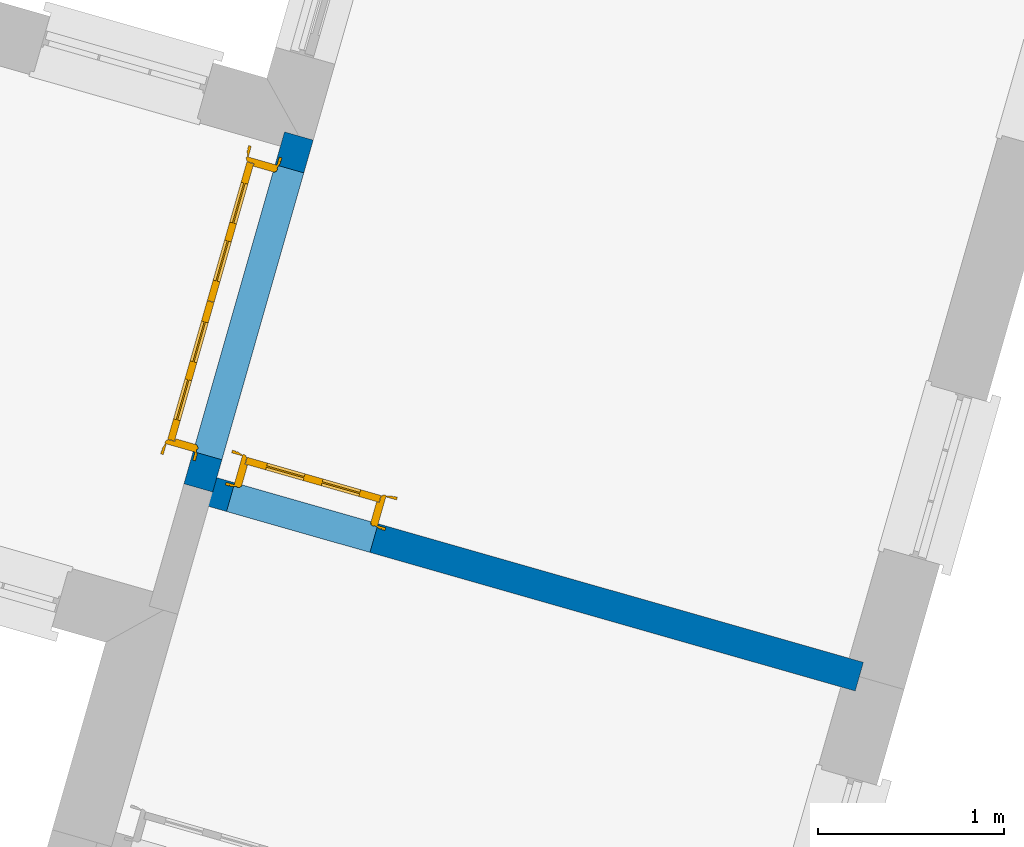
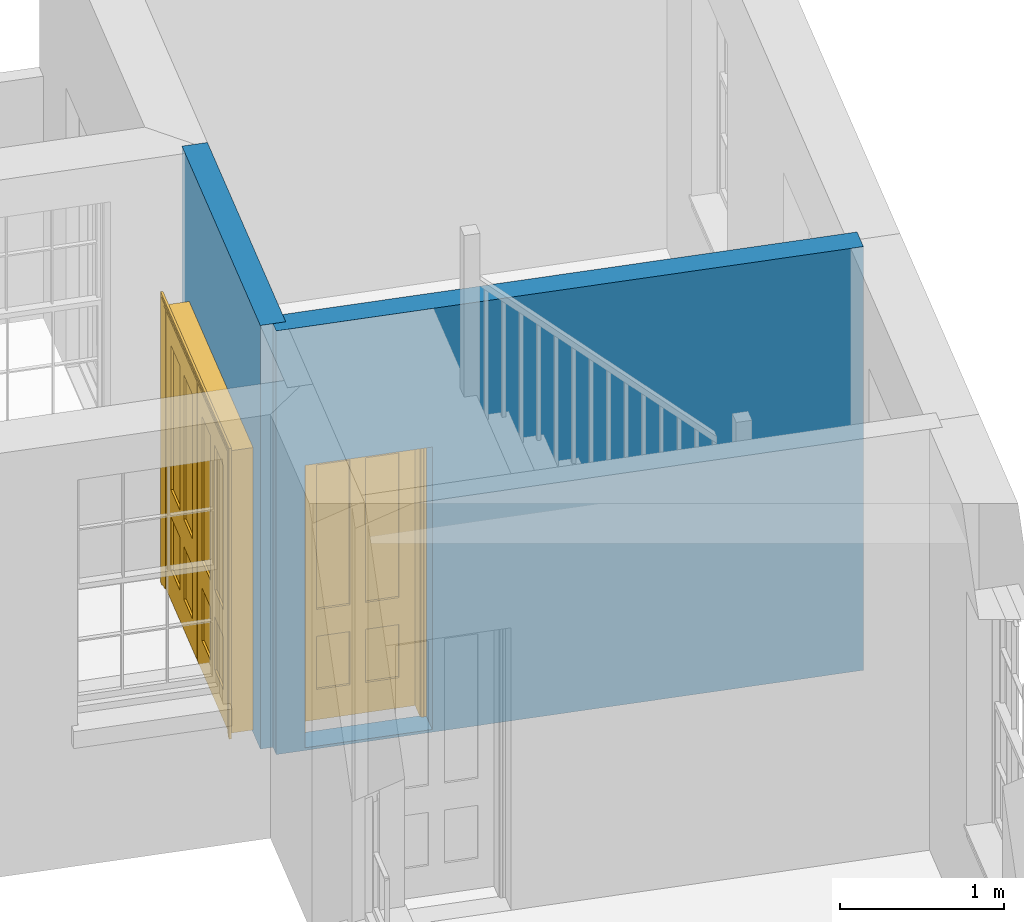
# One storey, part 5 of 7: 2 doors, 2 walls, 2 openings.
"""IFC4 building model written with IfcOpenShell, lengths in metres."""

import ifcopenshell
import ifcopenshell.guid

model = None  # the IFC model being written
_history = None  # IfcOwnerHistory: only IFC2X3 demands one
_inside = {}  # id of a spatial element -> (the spatial element, [elements in it])
_under = {}  # id of a project, library or spatial element -> (it, [spatial elements below it])
_declared = {}  # id of a project -> (the project, [libraries it declares])
_typed = {}  # id of a type object -> (the type object, [elements of that type])
_made_of = {}  # id of a material, layer set ... -> (it, [elements and type objects made of it])


def new_model(schema):
    """Start an empty IFC model of exactly this schema.

    Asked for "IFC4X3", IfcOpenShell would pick the latest addendum, in which some entities
    have other attributes; the version numbers below select the first issue.
    IFC2X3 requires an IfcOwnerHistory on every rooted entity: one is made here for all.
    """
    global model, _history
    if schema == "IFC4X3":
        model = ifcopenshell.file(schema_version=(4, 3, 0, 0))
    else:
        model = ifcopenshell.file(schema=schema)
    _inside.clear()
    _under.clear()
    _declared.clear()
    _typed.clear()
    _made_of.clear()
    _history = None
    if model.schema == "IFC2X3":
        org = make("IfcOrganization", Name="unknown")
        user = make(
            "IfcPersonAndOrganization",
            ThePerson=make("IfcPerson", FamilyName="unknown"),
            TheOrganization=org,
        )
        app = make(
            "IfcApplication",
            ApplicationDeveloper=org,
            Version="unknown",
            ApplicationFullName="unknown",
            ApplicationIdentifier="unknown",
        )
        _history = make(
            "IfcOwnerHistory",
            OwningUser=user,
            OwningApplication=app,
            ChangeAction="ADDED",
            CreationDate=0,
        )
    return model


def make(cls, **values):
    """One entity of the class cls with the attributes given. An attribute that is None is left unset."""
    return model.create_entity(
        cls, **{name: value for name, value in values.items() if value is not None}
    )


def rooted(cls, **values):
    """An entity with a GlobalId (a new one), such as an element, a storey or a relation."""
    return make(cls, GlobalId=ifcopenshell.guid.new(), OwnerHistory=_history, **values)


def si_unit(unit_type, name, prefix=None):
    """IfcSIUnit, for example si_unit("LENGTHUNIT", "METRE", prefix="MILLI")."""
    return make("IfcSIUnit", UnitType=unit_type, Prefix=prefix, Name=name)


def assignment(units):
    """IfcUnitAssignment: the units of a project."""
    return None if units is None else make("IfcUnitAssignment", Units=units)


def point(xyz):
    """IfcCartesianPoint."""
    return None if xyz is None else make("IfcCartesianPoint", Coordinates=xyz)


def direction(xyz):
    """IfcDirection."""
    return None if xyz is None else make("IfcDirection", DirectionRatios=xyz)


def frame(location, z_axis=None, x_axis=None):
    """IfcAxis2Placement3D, a coordinate frame: its origin and axes. An axis left out is left unset."""
    return make(
        "IfcAxis2Placement3D",
        Location=point(location),
        Axis=direction(z_axis),
        RefDirection=direction(x_axis),
    )


def origin():
    """The frame at (0, 0, 0) with its axes left unset."""
    return frame((0.0, 0.0, 0.0))


def origin_with_axes():
    """The frame at (0, 0, 0) with the z axis (0, 0, 1) and the x axis (1, 0, 0) written out."""
    return frame((0.0, 0.0, 0.0), z_axis=(0.0, 0.0, 1.0), x_axis=(1.0, 0.0, 0.0))


def place(relative_to, where):
    """IfcLocalPlacement: puts the frame where relative to a parent placement (None: the world)."""
    return make(
        "IfcLocalPlacement", PlacementRelTo=relative_to, RelativePlacement=where
    )


def context(
    kind, dimensions, precision=None, world=None, true_north=None, identifier=None
):
    """IfcGeometricRepresentationContext, for example the 3D "Model" context."""
    return make(
        "IfcGeometricRepresentationContext",
        ContextIdentifier=identifier,
        ContextType=kind,
        CoordinateSpaceDimension=dimensions,
        Precision=precision,
        WorldCoordinateSystem=world,
        TrueNorth=true_north,
    )


def subcontext(parent, identifier, kind, view, scale=None):
    """IfcGeometricRepresentationSubContext, for example "Body" below "Model"."""
    return make(
        "IfcGeometricRepresentationSubContext",
        ContextIdentifier=identifier,
        ContextType=kind,
        ParentContext=parent,
        TargetScale=scale,
        TargetView=view,
    )


def project(units=None, contexts=None):
    """IfcProject with its units and contexts."""
    return rooted(
        "IfcProject",
        Name="project",
        RepresentationContexts=contexts,
        UnitsInContext=assignment(units),
    )


def spatial(cls, under=None, at=None, **own):
    """A site, building, storey or space (cls), placed at a placement, below another one or the project."""
    s = rooted(cls, ObjectPlacement=at, **own)
    if under is not None:
        _under.setdefault(under.id(), (under, []))[1].append(s)
    return s


def polyline(points):
    """IfcPolyline through the points."""
    return make("IfcPolyline", Points=[point(p) for p in points])


def outline(outer, holes=None, kind="AREA"):
    """IfcArbitraryClosedProfileDef: a profile drawn as a closed curve; with holes, ...WithVoids."""
    if holes is None:
        return make("IfcArbitraryClosedProfileDef", ProfileType=kind, OuterCurve=outer)
    return make(
        "IfcArbitraryProfileDefWithVoids",
        ProfileType=kind,
        OuterCurve=outer,
        InnerCurves=holes,
    )


def extrude(swept, where, along, depth):
    """IfcExtrudedAreaSolid: the profile swept, set in the frame where, extruded along a direction by depth."""
    return make(
        "IfcExtrudedAreaSolid",
        SweptArea=swept,
        Position=where,
        ExtrudedDirection=direction(along),
        Depth=depth,
    )


def faces_of(points, faces, orient=None, outer=None):
    """IfcFace entities. A face is a list of loops; a loop is a list of indices into points, from 0.

    orient and outer hold one flag for each loop. By default every Orientation is true, the
    first loop of a face is its IfcFaceOuterBound and the others are IfcFaceBound.
    """
    made = []
    for i, loops in enumerate(faces):
        bounds = []
        for j, loop in enumerate(loops):
            is_outer = j == 0 if outer is None else outer[i][j]
            bounds.append(
                make(
                    "IfcFaceOuterBound" if is_outer else "IfcFaceBound",
                    Bound=make("IfcPolyLoop", Polygon=[points[k] for k in loop]),
                    Orientation=True if orient is None else orient[i][j],
                )
            )
        made.append(make("IfcFace", Bounds=bounds))
    return made


def faceted_brep(points, faces, orient=None, outer=None, voids=None):
    """IfcFacetedBrep: a solid bounded by flat faces; with voids (closed shells), ...WithVoids."""
    shared = [point(p) for p in points]
    hull = make("IfcClosedShell", CfsFaces=faces_of(shared, faces, orient, outer))
    if voids is None:
        return make("IfcFacetedBrep", Outer=hull)
    return make(
        "IfcFacetedBrepWithVoids",
        Outer=hull,
        Voids=[
            make(cls, CfsFaces=faces_of(shared, fs, o, b)) for cls, fs, o, b in voids
        ],
    )


def shape(context_of_items, identifier, shape_type, items):
    """IfcShapeRepresentation: the items that make up one representation, for example the "Body"."""
    return make(
        "IfcShapeRepresentation",
        ContextOfItems=context_of_items,
        RepresentationIdentifier=identifier,
        RepresentationType=shape_type,
        Items=items,
    )


def source(mapping_origin, context_of_items, identifier, shape_type, items):
    """IfcRepresentationMap: a shape defined once, which mapped items show again and again."""
    return make(
        "IfcRepresentationMap",
        MappingOrigin=mapping_origin,
        MappedRepresentation=shape(context_of_items, identifier, shape_type, items),
    )


def transform(
    local_origin,
    x_axis=None,
    y_axis=None,
    z_axis=None,
    scale=None,
    scale2=None,
    scale3=None,
    uniform=True,
):
    """IfcCartesianTransformationOperator3D, or its non-uniform kind. x_axis, y_axis, z_axis: its Axis1, 2, 3."""
    if uniform:
        return make(
            "IfcCartesianTransformationOperator3D",
            Axis1=direction(x_axis),
            Axis2=direction(y_axis),
            LocalOrigin=point(local_origin),
            Scale=scale,
            Axis3=direction(z_axis),
        )
    return make(
        "IfcCartesianTransformationOperator3DnonUniform",
        Axis1=direction(x_axis),
        Axis2=direction(y_axis),
        LocalOrigin=point(local_origin),
        Scale=scale,
        Axis3=direction(z_axis),
        Scale2=scale2,
        Scale3=scale3,
    )


def mapped(mapping_source, mapping_target):
    """IfcMappedItem: shows the shape of a source again, moved by a transform."""
    return make(
        "IfcMappedItem", MappingSource=mapping_source, MappingTarget=mapping_target
    )


def material(Name=None, Category=None):
    """IfcMaterial."""
    return make("IfcMaterial", Name=Name, Category=Category)


def layer(
    of_material, thickness, ventilated=None, Name=None, Category=None, Priority=None
):
    """IfcMaterialLayer: one layer of a wall or slab, of a material (None: an air gap)."""
    return make(
        "IfcMaterialLayer",
        Material=of_material,
        LayerThickness=thickness,
        IsVentilated=ventilated,
        Name=Name,
        Category=Category,
        Priority=Priority,
    )


def layer_set(layers, Name=None):
    """IfcMaterialLayerSet."""
    return make("IfcMaterialLayerSet", MaterialLayers=layers, LayerSetName=Name)


def layer_usage(for_layer_set, set_direction, sense, offset, extent=None):
    """IfcMaterialLayerSetUsage: how a layer set lies in its element."""
    return make(
        "IfcMaterialLayerSetUsage",
        ForLayerSet=for_layer_set,
        LayerSetDirection=set_direction,
        DirectionSense=sense,
        OffsetFromReferenceLine=offset,
        ReferenceExtent=extent,
    )


def made_of(thing, what):
    """Note that an element or type object is made of a material, layer set ...; save() writes the relation."""
    if what is not None:
        _made_of.setdefault(what.id(), (what, []))[1].append(thing)
    return thing


def type_object(cls, material=None, **own):
    """A type object (cls), such as IfcWallType, which elements share."""
    return made_of(rooted(cls, **own), material)


def type_shapes(of_type, sources):
    """Give a type object the sources (RepresentationMaps) that its elements show as mapped items."""
    of_type.RepresentationMaps = sources


def element(
    cls,
    number,
    at=None,
    inside=None,
    cuts=None,
    type_object=None,
    material=None,
    context=None,
    identifier="Body",
    shape_type=None,
    held_by="IfcProductDefinitionShape",
    body=None,
    shapes=None,
    **own,
):
    """One element of the class cls, such as IfcWall. Its Tag is "e" and its number.

    at: its placement. inside: the storey or other place that contains it. cuts: it is an
    opening in that element (IfcRelVoidsElement). A single representation is given by context,
    identifier, shape_type and body (its items); several are given by shapes. held_by: the class
    of the entity that holds the representations. save() writes the other relations.
    """
    e = rooted(cls, Tag="e%d" % number, ObjectPlacement=at, **own)
    if body is not None:
        shapes = [shape(context, identifier, shape_type, body)]
    if shapes is not None:
        e.Representation = make(held_by, Representations=shapes)
    if inside is not None:
        _inside.setdefault(inside.id(), (inside, []))[1].append(e)
    if cuts is not None:
        rooted(
            "IfcRelVoidsElement", RelatingBuildingElement=cuts, RelatedOpeningElement=e
        )
    if type_object is not None:
        _typed.setdefault(type_object.id(), (type_object, []))[1].append(e)
    return made_of(e, material)


def fill(opening, filler):
    """IfcRelFillsElement: the door or window that sits in an opening."""
    return rooted(
        "IfcRelFillsElement",
        RelatingOpeningElement=opening,
        RelatedBuildingElement=filler,
    )


def aggregate(whole, parts):
    """IfcRelAggregates: a whole, such as a stair, and the parts it consists of."""
    return rooted("IfcRelAggregates", RelatingObject=whole, RelatedObjects=parts)


def save(model, path):
    """Write the relations noted so far, then the file.

    IfcRelAggregates (storeys below a building ...), IfcRelContainedInSpatialStructure (elements
    in a storey), IfcRelDefinesByType, IfcRelAssociatesMaterial and IfcRelDeclares: one each for
    every whole, place, type object, material and project.
    """
    for whole, parts in _under.values():
        aggregate(whole, parts)
    for where, things in _inside.values():
        rooted(
            "IfcRelContainedInSpatialStructure",
            RelatedElements=things,
            RelatingStructure=where,
        )
    for kind, things in _typed.values():
        rooted("IfcRelDefinesByType", RelatedObjects=things, RelatingType=kind)
    for what, things in _made_of.values():
        rooted("IfcRelAssociatesMaterial", RelatedObjects=things, RelatingMaterial=what)
    for by, libraries in _declared.values():
        rooted("IfcRelDeclares", RelatingContext=by, RelatedDefinitions=libraries)
    model.write(path)


model = new_model("IFC4")

# Units and contexts
model_context = context("Model", 3, world=origin_with_axes())
body_context = subcontext(model_context, "Body", "Model", "MODEL_VIEW")
ifc_project = project(units=[si_unit("PLANEANGLEUNIT", "RADIAN"), si_unit("MASSUNIT", "GRAM", prefix="KILO"), si_unit("FORCEUNIT", "NEWTON", prefix="KILO"), si_unit("LENGTHUNIT", "METRE"), si_unit("AREAUNIT", "SQUARE_METRE"), si_unit("VOLUMEUNIT", "CUBIC_METRE")], contexts=[model_context, model_context])

# Sites, building, storey
site_1_placement = place(None, origin_with_axes())
site_1 = spatial("IfcSite", under=ifc_project, at=site_1_placement, Name="Tamar")
site_2_placement = place(site_1_placement, origin_with_axes())
site_2 = spatial("IfcSite", under=site_1, at=site_2_placement, Name="Site plot-20", CompositionType="ELEMENT")
building_placement = place(None, origin_with_axes())
building = spatial("IfcBuilding", under=site_2, at=building_placement, Name="Building plot-20", CompositionType="ELEMENT")
storey_placement = place(None, frame((0.0, 0.0, 26.0), z_axis=(0.0, 0.0, 1.0), x_axis=(1.0, 0.0, 0.0)))
storey = spatial("IfcBuildingStorey", under=building, at=storey_placement, Name="plot-20 0", CompositionType="ELEMENT", Elevation=26.0)

# Wall, opening, door
ifc_material = material(Name="Masonry")
ifc_layer = layer(ifc_material, 0.16, ventilated=False)
ifc_layer_set = layer_set([ifc_layer], Name="interior_0.08_0.08")
ifc_layer_usage = layer_usage(ifc_layer_set, "AXIS2", "POSITIVE", -0.08)
wall_type = type_object("IfcWallType", Name="interior_0.08_0.08", PredefinedType="SOLIDWALL", material=ifc_layer_set)
wall_1_placement = place(storey_placement, frame((277.587269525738, 289.452698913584, 0.0), z_axis=(0.0, 0.0, 1.0), x_axis=(0.274568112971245, 0.961567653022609, 0.0)))
wall_1 = element("IfcWall", 1, at=wall_1_placement, inside=storey, type_object=wall_type, material=ifc_layer_usage, Name="interior", context=body_context, shape_type="SweptSolid", body=[
    extrude(outline(polyline([(-1.45079367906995e-14, 0.0799999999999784), (1.45177339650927e-14, -0.0799999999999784), (1.96337706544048, -0.0799999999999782), (1.96337706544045, 0.0799999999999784), (-1.45079367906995e-14, 0.0799999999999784)])), origin_with_axes(), (0.0, 0.0, 1.0), 3.15),
])
opening_1_placement = place(wall_1_placement, frame((0.180000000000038, 0.0, 0.0199999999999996)))
opening_1 = element("IfcOpeningElement", 2, at=opening_1_placement, cuts=wall_1, Name="My Opening", ObjectType="Opening", context=body_context, shape_type="SweptSolid", body=[
    extrude(outline(polyline([(0.0, -0.100000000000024), (1.6, -0.100000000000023), (1.59999999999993, 1.09999999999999), (-7.72160113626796e-14, 1.09999999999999), (0.0, -0.100000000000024)])), origin_with_axes(), (0.0, 0.0, 1.0), 2.1),
])
door_type_1 = type_object("IfcDoorType", Name="door_inside_double", OperationType="SINGLE_SWING_LEFT", PredefinedType="NOTDEFINED")
shared_shape_1 = source(origin(), body_context, "Body", "Brep", [
    faceted_brep([(0.14, 0.307, 1.895), (0.14, 0.307, 0.82), (0.363, 0.307, 0.82), (0.363, 0.307, 1.895), (0.14, 0.292, 1.895), (0.14, 0.292, 0.82), (0.363, 0.292, 0.82), (0.363, 0.292, 1.895), (0.027, 0.292, 1.895), (0.027, 0.292, 0.82), (0.363, 0.292, 0.62), (0.14, 0.292, 0.62), (0.463, 0.292, 0.82), (0.463, 0.292, 1.895), (0.363, 0.292, 2.073), (0.14, 0.292, 2.073), (0.027, 0.292, 2.073), (0.027, 0.33, 1.895), (0.027, 0.33, 0.82), (0.027, 0.292, 0.62), (0.463, 0.292, 0.62), (0.14, 0.307, 0.62), (0.363, 0.307, 0.62), (0.463, 0.307, 0.82), (0.463, 0.307, 1.895), (0.463, 0.292, 2.073), (0.14, 0.33, 2.073), (0.363, 0.33, 2.073), (0.027, 0.33, 2.073), (0.14, 0.33, 1.895), (0.14, 0.33, 0.82), (0.027, 0.33, 0.62), (0.027, 0.292, 0.225), (0.14, 0.292, 0.225), (0.363, 0.292, 0.225), (0.463, 0.292, 0.225), (0.686, 0.292, 0.62), (0.686, 0.292, 0.82), (0.14, 0.307, 0.225), (0.363, 0.307, 0.225), (0.686, 0.307, 0.82), (0.686, 0.307, 1.895), (0.686, 0.292, 1.895), (0.686, 0.292, 2.073), (0.463, 0.33, 2.073), (0.363, 0.33, 1.895), (0.14, 0.315, 1.895), (0.14, 0.315, 0.82), (0.14, 0.33, 0.62), (0.027, 0.33, 0.225), (0.027, 0.292, 0.0), (0.14, 0.292, 0.0), (0.363, 0.292, 0.0), (0.463, 0.292, 0.0), (0.463, 0.307, 0.225), (0.463, 0.307, 0.62), (0.686, 0.307, 0.62), (0.799, 0.292, 0.62), (0.799, 0.292, 0.82), (0.799, 0.292, 1.895), (0.799, 0.292, 2.073), (0.686, 0.33, 2.073), (0.463, 0.33, 1.895), (0.363, 0.315, 1.895), (0.363, 0.315, 0.82), (0.363, 0.33, 0.82), (0.363, 0.33, 0.62), (0.14, 0.33, 0.225), (0.027, 0.33, 0.0), (0.14, 0.33, 0.0), (0.363, 0.33, 0.0), (0.463, 0.33, 0.0), (0.686, 0.292, 0.0), (0.686, 0.292, 0.225), (0.686, 0.307, 0.225), (0.799, 0.292, 0.225), (0.799, 0.33, 0.62), (0.799, 0.33, 0.82), (0.799, 0.33, 1.895), (0.799, 0.33, 2.073), (0.686, 0.33, 1.895), (0.463, 0.33, 0.82), (0.463, 0.33, 0.62), (0.363, 0.315, 0.62), (0.14, 0.315, 0.62), (0.14, 0.315, 0.225), (0.363, 0.33, 0.225), (0.463, 0.33, 0.225), (0.686, 0.33, 0.0), (0.799, 0.292, 0.0), (0.799, 0.33, 0.225), (0.686, 0.33, 0.62), (0.686, 0.33, 0.82), (0.686, 0.315, 1.895), (0.463, 0.315, 1.895), (0.463, 0.315, 0.82), (0.363, 0.315, 0.225), (0.686, 0.33, 0.225), (0.799, 0.33, 0.0), (0.686, 0.315, 0.82), (0.463, 0.315, 0.62), (0.463, 0.315, 0.225), (0.686, 0.315, 0.62), (0.686, 0.315, 0.225), (1.46, 0.33, 1.895), (1.237, 0.33, 1.895), (1.237, 0.33, 2.073), (1.46, 0.33, 2.073), (1.46, 0.315, 1.895), (1.237, 0.315, 1.895), (1.137, 0.33, 1.895), (1.137, 0.33, 2.073), (1.237, 0.292, 2.073), (1.46, 0.292, 2.073), (1.573, 0.33, 1.895), (1.573, 0.33, 2.073), (1.46, 0.33, 0.82), (1.46, 0.315, 0.82), (1.237, 0.315, 0.82), (1.237, 0.33, 0.82), (1.137, 0.33, 0.82), (0.914, 0.33, 2.073), (0.914, 0.33, 1.895), (1.137, 0.292, 2.073), (1.237, 0.292, 1.895), (1.46, 0.292, 1.895), (1.573, 0.292, 2.073), (1.573, 0.33, 0.82), (1.573, 0.292, 1.895), (1.237, 0.33, 0.62), (1.137, 0.33, 0.62), (1.137, 0.315, 0.82), (1.137, 0.315, 1.895), (0.914, 0.292, 2.073), (0.914, 0.315, 1.895), (0.801, 0.33, 2.073), (0.801, 0.33, 1.895), (1.137, 0.292, 1.895), (1.237, 0.307, 1.895), (1.46, 0.307, 1.895), (1.573, 0.292, 0.82), (1.573, 0.33, 0.62), (1.46, 0.33, 0.62), (1.237, 0.33, 0.225), (1.137, 0.33, 0.225), (0.914, 0.33, 0.82), (0.914, 0.33, 0.62), (0.914, 0.315, 0.82), (0.801, 0.292, 2.073), (0.914, 0.292, 1.895), (0.801, 0.33, 0.82), (0.801, 0.292, 1.895), (1.137, 0.292, 0.82), (1.237, 0.292, 0.82), (1.237, 0.307, 0.82), (1.46, 0.307, 0.82), (1.46, 0.292, 0.82), (1.573, 0.292, 0.62), (1.573, 0.33, 0.225), (1.46, 0.33, 0.225), (1.46, 0.315, 0.62), (1.237, 0.315, 0.62), (1.237, 0.33, 0.0), (1.137, 0.33, 0.0), (1.137, 0.315, 0.225), (1.137, 0.315, 0.62), (1.237, 0.315, 0.225), (0.914, 0.315, 0.62), (0.801, 0.33, 0.62), (0.914, 0.307, 1.895), (1.137, 0.307, 1.895), (0.801, 0.292, 0.82), (1.137, 0.292, 0.62), (1.237, 0.292, 0.62), (1.137, 0.307, 0.82), (1.46, 0.292, 0.62), (1.573, 0.292, 0.225), (1.573, 0.33, 0.0), (1.46, 0.33, 0.0), (1.46, 0.315, 0.225), (1.237, 0.292, 0.0), (1.137, 0.292, 0.0), (0.914, 0.33, 0.225), (0.914, 0.33, 0.0), (0.914, 0.315, 0.225), (0.801, 0.33, 0.225), (0.801, 0.292, 0.62), (0.914, 0.292, 0.82), (0.914, 0.307, 0.82), (1.137, 0.292, 0.225), (1.237, 0.292, 0.225), (0.914, 0.292, 0.62), (1.46, 0.292, 0.225), (1.573, 0.292, 0.0), (1.46, 0.292, 0.0), (0.914, 0.292, 0.0), (0.801, 0.33, 0.0), (0.801, 0.292, 0.225), (1.237, 0.307, 0.225), (1.237, 0.307, 0.62), (1.137, 0.307, 0.62), (1.137, 0.307, 0.225), (1.46, 0.307, 0.62), (0.914, 0.307, 0.62), (1.46, 0.307, 0.225), (0.914, 0.292, 0.225), (0.801, 0.292, 0.0), (0.914, 0.307, 0.225), (0.02, 0.335, 0.0), (0.005, 0.34, 0.0), (0.005, 0.34, 2.095), (0.02, 0.335, 2.08), (0.02, 0.33, 0.0), (0.0, 0.335, 0.0), (0.0, 0.335, 2.1), (1.595, 0.34, 2.095), (1.58, 0.335, 2.08), (0.02, 0.33, 2.08), (0.0, 0.33, 0.0), (-0.032, 0.345, 0.0), (-0.032, 0.345, 2.132), (1.6, 0.335, 2.1), (1.595, 0.34, 0.0), (1.58, 0.335, 0.0), (1.58, 0.33, 2.08), (0.025, 0.33, 0.0), (0.025, 0.33, 2.075), (-0.04, 0.34, 0.0), (0.025, 0.29, 0.0), (0.0, 0.17, 0.0), (-0.04, 0.34, 2.14), (1.632, 0.345, 2.132), (1.6, 0.335, 0.0), (1.58, 0.33, 0.0), (1.575, 0.33, 2.075), (0.025, 0.29, 2.075), (-0.06, 0.33, 0.0), (0.035, 0.17, 0.0), (0.0, 0.17, 2.1), (0.0, 0.33, 2.1), (-0.04, 0.345, 0.0), (-0.04, 0.345, 2.14), (1.64, 0.34, 2.14), (1.632, 0.345, 0.0), (1.6, 0.33, 0.0), (1.575, 0.33, 0.0), (1.575, 0.29, 2.075), (0.04, 0.29, 0.0), (0.04, 0.29, 2.06), (-0.06, 0.345, 0.0), (-0.06, 0.33, 2.16), (0.015, 0.165, 0.0), (0.04, 0.17, 0.0), (-0.045, 0.17, 2.145), (-0.045, 0.17, 0.0), (1.6, 0.17, 2.1), (1.6, 0.33, 2.1), (-0.06, 0.345, 2.16), (1.64, 0.345, 2.14), (1.64, 0.34, 0.0), (1.6, 0.17, 0.0), (1.575, 0.29, 0.0), (1.56, 0.29, 2.06), (0.04, 0.17, 2.06), (1.66, 0.33, 2.16), (-0.017, 0.155, 0.0), (-0.025, 0.16, 0.0), (0.02, 0.16, 0.0), (0.035, 0.165, 0.0), (0.035, 0.17, 2.065), (1.645, 0.17, 2.145), (-0.045, 0.155, 2.145), (-0.045, 0.155, 0.0), (1.66, 0.345, 2.16), (1.64, 0.345, 0.0), (1.66, 0.33, 0.0), (1.565, 0.17, 0.0), (1.56, 0.29, 0.0), (1.56, 0.17, 2.06), (-0.017, 0.155, 2.117), (-0.025, 0.16, 2.125), (0.015, 0.165, 2.085), (0.02, 0.16, 2.08), (0.035, 0.165, 2.065), (1.565, 0.17, 2.065), (1.645, 0.17, 0.0), (1.645, 0.155, 2.145), (-0.025, 0.155, 0.0), (1.66, 0.345, 0.0), (1.585, 0.165, 0.0), (1.56, 0.17, 0.0), (1.617, 0.155, 2.117), (1.625, 0.16, 2.125), (-0.025, 0.155, 2.125), (1.585, 0.165, 2.085), (1.58, 0.16, 2.08), (1.565, 0.165, 2.065), (1.625, 0.16, 0.0), (1.645, 0.155, 0.0), (1.625, 0.155, 2.125), (1.617, 0.155, 0.0), (1.565, 0.165, 0.0), (1.58, 0.16, 0.0), (1.625, 0.155, 0.0)], [[[0, 1, 2, 3]], [[1, 0, 4, 5]], [[2, 1, 5, 6]], [[6, 7, 3, 2]], [[7, 4, 0, 3]], [[4, 8, 9, 5]], [[10, 6, 5, 11]], [[6, 12, 13, 7]], [[14, 15, 4, 7]], [[15, 16, 8, 4]], [[9, 8, 17, 18]], [[5, 9, 19, 11]], [[10, 20, 12, 6]], [[10, 11, 21, 22]], [[13, 12, 23, 24]], [[7, 13, 25, 14]], [[26, 15, 14, 27]], [[28, 16, 15, 26]], [[8, 16, 28, 17]], [[17, 29, 30, 18]], [[18, 31, 19, 9]], [[11, 19, 32, 33]], [[34, 35, 20, 10]], [[20, 36, 37, 12]], [[11, 33, 38, 21]], [[39, 22, 21, 38]], [[34, 10, 22, 39]], [[12, 37, 40, 23]], [[24, 23, 40, 41]], [[42, 13, 24, 41]], [[13, 42, 43, 25]], [[14, 25, 44, 27]], [[26, 27, 45, 29]], [[28, 26, 29, 17]], [[30, 29, 46, 47]], [[18, 30, 48, 31]], [[31, 49, 32, 19]], [[33, 32, 50, 51]], [[52, 53, 35, 34]], [[20, 35, 54, 55]], [[36, 20, 55, 56]], [[36, 57, 58, 37]], [[33, 34, 39, 38]], [[37, 42, 41, 40]], [[42, 59, 60, 43]], [[44, 25, 43, 61]], [[62, 45, 27, 44]], [[29, 45, 63, 46]], [[46, 63, 64, 47]], [[65, 30, 47, 64]], [[30, 65, 66, 48]], [[31, 48, 67, 49]], [[68, 50, 32, 49]], [[68, 69, 51, 50]], [[34, 33, 51, 52]], [[53, 52, 70, 71]], [[53, 72, 73, 35]], [[35, 73, 74, 54]], [[55, 54, 74, 56]], [[73, 36, 56, 74]], [[73, 75, 57, 36]], [[57, 76, 77, 58]], [[37, 58, 59, 42]], [[78, 79, 60, 59]], [[60, 79, 61, 43]], [[80, 62, 44, 61]], [[81, 65, 45, 62]], [[45, 65, 64, 63]], [[82, 66, 65, 81]], [[48, 66, 83, 84]], [[67, 48, 84, 85]], [[49, 67, 69, 68]], [[52, 51, 69, 70]], [[71, 70, 86, 87]], [[72, 53, 71, 88]], [[72, 89, 75, 73]], [[75, 90, 76, 57]], [[76, 91, 92, 77]], [[78, 59, 58, 77]], [[78, 80, 61, 79]], [[62, 80, 93, 94]], [[81, 62, 94, 95]], [[87, 86, 66, 82]], [[91, 82, 81, 92]], [[66, 86, 96, 83]], [[84, 83, 96, 85]], [[86, 67, 85, 96]], [[67, 86, 70, 69]], [[88, 71, 87, 97]], [[89, 72, 88, 98]], [[89, 98, 90, 75]], [[90, 97, 91, 76]], [[80, 78, 77, 92]], [[80, 92, 99, 93]], [[99, 95, 94, 93]], [[92, 81, 95, 99]], [[87, 82, 100, 101]], [[82, 91, 102, 100]], [[97, 87, 101, 103]], [[98, 88, 97, 90]], [[91, 97, 103, 102]], [[103, 101, 100, 102]], [[104, 105, 106, 107]], [[105, 104, 108, 109]], [[105, 110, 111, 106]], [[106, 112, 113, 107]], [[114, 104, 107, 115]], [[104, 116, 117, 108]], [[117, 118, 109, 108]], [[119, 105, 109, 118]], [[119, 120, 110, 105]], [[121, 111, 110, 122]], [[123, 112, 106, 111]], [[124, 125, 113, 112]], [[126, 115, 107, 113]], [[104, 114, 127, 116]], [[114, 115, 126, 128]], [[116, 119, 118, 117]], [[129, 130, 120, 119]], [[110, 120, 131, 132]], [[121, 133, 123, 111]], [[122, 110, 132, 134]], [[135, 121, 122, 136]], [[137, 124, 112, 123]], [[125, 124, 138, 139]], [[125, 128, 126, 113]], [[114, 128, 140, 127]], [[141, 142, 116, 127]], [[142, 129, 119, 116]], [[143, 144, 130, 129]], [[145, 120, 130, 146]], [[120, 145, 147, 131]], [[134, 132, 131, 147]], [[135, 148, 133, 121]], [[123, 133, 149, 137]], [[145, 122, 134, 147]], [[136, 122, 145, 150]], [[151, 148, 135, 136]], [[152, 153, 124, 137]], [[124, 153, 154, 138]], [[138, 154, 155, 139]], [[156, 125, 139, 155]], [[156, 140, 128, 125]], [[157, 141, 127, 140]], [[158, 159, 142, 141]], [[129, 142, 160, 161]], [[162, 163, 144, 143]], [[130, 144, 164, 165]], [[143, 129, 161, 166]], [[146, 130, 165, 167]], [[150, 145, 146, 168]], [[133, 148, 151, 149]], [[137, 149, 169, 170]], [[171, 151, 136, 150]], [[172, 173, 153, 152]], [[152, 137, 170, 174]], [[153, 156, 155, 154]], [[175, 157, 140, 156]], [[176, 158, 141, 157]], [[177, 178, 159, 158]], [[142, 159, 179, 160]], [[179, 166, 161, 160]], [[180, 181, 163, 162]], [[182, 144, 163, 183]], [[178, 162, 143, 159]], [[144, 182, 184, 164]], [[167, 165, 164, 184]], [[159, 143, 166, 179]], [[182, 146, 167, 184]], [[168, 146, 182, 185]], [[150, 168, 186, 171]], [[149, 151, 171, 187]], [[149, 187, 188, 169]], [[169, 188, 174, 170]], [[189, 190, 173, 172]], [[173, 175, 156, 153]], [[172, 152, 187, 191]], [[187, 152, 174, 188]], [[192, 176, 157, 175]], [[193, 177, 158, 176]], [[193, 194, 178, 177]], [[181, 180, 190, 189]], [[181, 195, 183, 163]], [[194, 180, 162, 178]], [[185, 182, 183, 196]], [[168, 185, 197, 186]], [[187, 171, 186, 191]], [[173, 190, 198, 199]], [[189, 172, 200, 201]], [[175, 173, 199, 202]], [[172, 191, 203, 200]], [[194, 193, 176, 192]], [[192, 175, 202, 204]], [[180, 194, 192, 190]], [[189, 205, 195, 181]], [[196, 183, 195, 206]], [[196, 206, 197, 185]], [[191, 186, 197, 205]], [[190, 192, 204, 198]], [[199, 198, 204, 202]], [[201, 200, 203, 207]], [[205, 189, 201, 207]], [[191, 205, 207, 203]], [[205, 197, 206, 195]], [[208, 209, 210, 211]], [[208, 212, 213, 209]], [[209, 213, 214, 210]], [[211, 210, 215, 216]], [[211, 217, 212, 208]], [[218, 213, 212]], [[213, 219, 220, 214]], [[210, 214, 221, 215]], [[216, 215, 222, 223]], [[217, 211, 216, 224]], [[225, 212, 217, 226]], [[219, 213, 218, 227]], [[218, 212, 228, 229]], [[219, 227, 230, 220]], [[214, 220, 231, 221]], [[215, 221, 232, 222]], [[222, 232, 233, 223]], [[224, 216, 223, 233]], [[226, 217, 224, 234]], [[225, 228, 212]], [[235, 228, 225, 226]], [[236, 227, 218]], [[237, 229, 228]], [[229, 238, 239, 218]], [[227, 240, 241, 230]], [[220, 230, 242, 231]], [[221, 231, 243, 232]], [[244, 233, 232]], [[234, 224, 233, 245]], [[246, 235, 226, 234]], [[247, 228, 235, 248]], [[240, 227, 236, 249]], [[239, 250, 236, 218]], [[251, 229, 237]], [[252, 237, 228, 247]], [[253, 238, 229, 254]], [[238, 255, 256, 239]], [[241, 240, 257]], [[230, 241, 258, 242]], [[231, 242, 259, 243]], [[259, 244, 232, 243]], [[260, 261, 233, 244]], [[245, 233, 261]], [[261, 246, 234, 245]], [[248, 235, 246, 262]], [[248, 263, 252, 247]], [[250, 257, 249, 236]], [[240, 249, 257]], [[256, 264, 250, 239]], [[265, 266, 229, 251]], [[267, 251, 237, 268]], [[263, 269, 237, 252]], [[270, 255, 238, 253]], [[229, 266, 254]], [[271, 253, 254, 272]], [[256, 255, 260, 244]], [[273, 241, 257]], [[273, 258, 241]], [[242, 258, 274, 259]], [[275, 244, 259]], [[260, 276, 261]], [[261, 277, 262, 246]], [[262, 278, 263, 248]], [[264, 273, 257, 250]], [[244, 275, 264, 256]], [[266, 265, 279, 280]], [[265, 251, 281, 279]], [[251, 267, 282, 281]], [[269, 283, 268, 237]], [[267, 268, 283, 282]], [[278, 284, 269, 263]], [[285, 260, 255, 270]], [[286, 270, 253, 271]], [[272, 254, 266, 287]], [[271, 272, 287]], [[273, 274, 258]], [[288, 275, 259, 274]], [[276, 260, 289]], [[277, 261, 276, 290]], [[278, 262, 277, 290]], [[275, 288, 273, 264]], [[280, 279, 291, 292]], [[287, 266, 280, 293]], [[279, 281, 294, 291]], [[281, 282, 295, 294]], [[284, 296, 283, 269]], [[282, 283, 296, 295]], [[290, 276, 284, 278]], [[285, 297, 260]], [[298, 285, 270, 286]], [[299, 286, 271]], [[271, 287, 293]], [[273, 288, 274]], [[300, 289, 260, 297]], [[301, 276, 289, 302]], [[292, 291, 300, 297]], [[293, 280, 292, 299]], [[291, 294, 289, 300]], [[294, 295, 302, 289]], [[296, 284, 276, 301]], [[295, 296, 301, 302]], [[303, 297, 285, 298]], [[299, 298, 286]], [[271, 293, 299]], [[299, 292, 297, 303]], [[299, 303, 298]]]),
])
type_shapes(door_type_1, [shared_shape_1])
door_1_placement = place(storey_placement, frame((277.732848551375, 289.598324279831, 0.0199999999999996), z_axis=(0.0, 0.0, 1.0), x_axis=(0.439308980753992, 1.53850824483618, 0.0)))
door_1 = element("IfcDoor", 3, at=door_1_placement, inside=storey, type_object=door_type_1, Name="kitchen living inside door", OverallHeight=2.1, OverallWidth=1.6, context=body_context, shape_type="MappedRepresentation", body=[
    mapped(shared_shape_1, transform((0.0, 0.0, 0.0), scale=1.0)),
])
fill(opening_1, door_1)

wall_2_placement = place(storey_placement, frame((277.587269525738, 289.452698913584, 0.0), z_axis=(0.0, 0.0, 1.0), x_axis=(0.961567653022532, -0.274568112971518, 0.0)))
wall_2 = element("IfcWall", 4, at=wall_2_placement, inside=storey, type_object=wall_type, material=ifc_layer_usage, Name="interior", context=body_context, shape_type="SweptSolid", body=[
    extrude(outline(polyline([(1.74487227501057e-14, 0.079999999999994), (-1.74229927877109e-14, -0.079999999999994), (3.68676876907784, -0.079999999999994), (3.68676876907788, 0.0799999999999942), (1.74487227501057e-14, 0.079999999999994)])), origin_with_axes(), (0.0, 0.0, 1.0), 3.15),
])
opening_2_placement = place(wall_2_placement, frame((0.180000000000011, 0.0, 0.0199999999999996)))
opening_2 = element("IfcOpeningElement", 5, at=opening_2_placement, cuts=wall_2, Name="My Opening", ObjectType="Opening", context=body_context, shape_type="SweptSolid", body=[
    extrude(outline(polyline([(0.0, -0.0999999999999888), (0.800000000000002, -0.0999999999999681), (0.800000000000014, 1.09999999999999), (1.19071419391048e-14, 1.09999999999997), (0.0, -0.0999999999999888)])), origin_with_axes(), (0.0, 0.0, 1.0), 2.1),
])
door_type_2 = type_object("IfcDoorType", Name="door_inside", OperationType="SINGLE_SWING_LEFT", PredefinedType="NOTDEFINED")
shared_shape_2 = source(origin(), body_context, "Body", "Brep", [
    faceted_brep([(0.773, 0.33, 1.895), (0.66, 0.33, 1.895), (0.66, 0.33, 2.073), (0.773, 0.33, 2.073), (0.773, 0.33, 0.82), (0.66, 0.33, 0.82), (0.45, 0.33, 1.895), (0.45, 0.33, 2.073), (0.773, 0.33, 0.62), (0.66, 0.33, 0.62), (0.66, 0.315, 0.82), (0.66, 0.315, 1.895), (0.45, 0.315, 1.895), (0.35, 0.33, 1.895), (0.35, 0.33, 2.073), (0.773, 0.33, 0.225), (0.66, 0.33, 0.225), (0.45, 0.33, 0.62), (0.45, 0.33, 0.82), (0.45, 0.315, 0.82), (0.35, 0.33, 0.82), (0.14, 0.33, 2.073), (0.14, 0.33, 1.895), (0.773, 0.33, 0.0), (0.66, 0.33, 0.0), (0.66, 0.315, 0.225), (0.66, 0.315, 0.62), (0.45, 0.315, 0.62), (0.35, 0.33, 0.62), (0.35, 0.315, 0.82), (0.35, 0.315, 1.895), (0.14, 0.315, 1.895), (0.027, 0.33, 2.073), (0.027, 0.33, 1.895), (0.773, 0.292, 0.0), (0.66, 0.292, 0.0), (0.45, 0.33, 0.0), (0.45, 0.33, 0.225), (0.45, 0.315, 0.225), (0.35, 0.33, 0.225), (0.14, 0.33, 0.82), (0.14, 0.33, 0.62), (0.14, 0.315, 0.82), (0.027, 0.33, 0.82), (0.773, 0.292, 0.225), (0.66, 0.292, 0.225), (0.45, 0.292, 0.0), (0.35, 0.33, 0.0), (0.35, 0.315, 0.225), (0.35, 0.315, 0.62), (0.14, 0.315, 0.62), (0.027, 0.33, 0.62), (0.773, 0.292, 0.62), (0.66, 0.292, 0.62), (0.45, 0.292, 0.225), (0.35, 0.292, 0.0), (0.14, 0.33, 0.225), (0.14, 0.33, 0.0), (0.14, 0.315, 0.225), (0.027, 0.33, 0.225), (0.773, 0.292, 0.82), (0.66, 0.292, 0.82), (0.66, 0.307, 0.62), (0.66, 0.307, 0.225), (0.45, 0.307, 0.225), (0.35, 0.292, 0.225), (0.14, 0.292, 0.0), (0.027, 0.33, 0.0), (0.773, 0.292, 1.895), (0.66, 0.292, 1.895), (0.45, 0.292, 0.62), (0.45, 0.292, 0.82), (0.45, 0.307, 0.62), (0.35, 0.292, 0.62), (0.14, 0.292, 0.225), (0.027, 0.292, 0.0), (0.773, 0.292, 2.073), (0.66, 0.292, 2.073), (0.66, 0.307, 1.895), (0.66, 0.307, 0.82), (0.45, 0.307, 0.82), (0.35, 0.292, 0.82), (0.35, 0.307, 0.62), (0.35, 0.307, 0.225), (0.14, 0.307, 0.225), (0.027, 0.292, 0.225), (0.45, 0.292, 1.895), (0.45, 0.292, 2.073), (0.45, 0.307, 1.895), (0.35, 0.292, 1.895), (0.14, 0.292, 0.82), (0.14, 0.292, 0.62), (0.14, 0.307, 0.62), (0.027, 0.292, 0.62), (0.35, 0.292, 2.073), (0.35, 0.307, 1.895), (0.35, 0.307, 0.82), (0.14, 0.307, 0.82), (0.027, 0.292, 0.82), (0.14, 0.292, 2.073), (0.14, 0.292, 1.895), (0.14, 0.307, 1.895), (0.027, 0.292, 1.895), (0.027, 0.292, 2.073), (0.02, 0.335, 0.0), (0.005, 0.34, 0.0), (0.005, 0.34, 2.095), (0.02, 0.335, 2.08), (0.02, 0.33, 0.0), (0.0, 0.335, 0.0), (0.0, 0.335, 2.1), (0.795, 0.34, 2.095), (0.78, 0.335, 2.08), (0.02, 0.33, 2.08), (0.0, 0.33, 0.0), (-0.032, 0.345, 0.0), (-0.032, 0.345, 2.132), (0.8, 0.335, 2.1), (0.795, 0.34, 0.0), (0.78, 0.335, 0.0), (0.78, 0.33, 2.08), (0.04, 0.29, 0.0), (0.025, 0.29, 0.0), (0.025, 0.29, 2.075), (0.04, 0.29, 2.06), (-0.04, 0.34, 0.0), (-0.04, 0.34, 2.14), (0.832, 0.345, 2.132), (0.8, 0.335, 0.0), (0.78, 0.33, 0.0), (0.8, 0.33, 0.0), (0.86, 0.33, 0.0), (0.86, 0.33, 2.16), (0.8, 0.33, 2.1), (-0.06, 0.33, 2.16), (0.0, 0.33, 2.1), (-0.06, 0.33, 0.0), (-0.04, 0.345, 0.0), (-0.04, 0.345, 2.14), (0.84, 0.34, 2.14), (0.832, 0.345, 0.0), (0.84, 0.34, 0.0), (0.86, 0.345, 0.0), (0.86, 0.345, 2.16), (-0.06, 0.345, 2.16), (-0.06, 0.345, 0.0), (0.84, 0.345, 0.0), (0.84, 0.345, 2.14), (-0.025, 0.155, 0.0), (-0.025, 0.16, 0.0), (-0.025, 0.16, 2.125), (-0.025, 0.155, 2.125), (-0.017, 0.155, 0.0), (-0.017, 0.155, 2.117), (0.825, 0.16, 2.125), (0.825, 0.155, 2.125), (0.825, 0.155, 0.0), (0.845, 0.155, 0.0), (-0.045, 0.155, 2.145), (-0.045, 0.155, 0.0), (0.845, 0.155, 2.145), (0.015, 0.165, 0.0), (0.015, 0.165, 2.085), (0.817, 0.155, 2.117), (0.825, 0.16, 0.0), (0.845, 0.17, 0.0), (0.845, 0.17, 2.145), (-0.045, 0.17, 2.145), (-0.045, 0.17, 0.0), (0.02, 0.16, 0.0), (0.02, 0.16, 2.08), (0.785, 0.165, 2.085), (0.817, 0.155, 0.0), (0.8, 0.17, 0.0), (0.8, 0.17, 2.1), (0.0, 0.17, 2.1), (0.0, 0.17, 0.0), (0.035, 0.165, 0.0), (0.035, 0.165, 2.065), (0.78, 0.16, 2.08), (0.785, 0.165, 0.0), (0.775, 0.29, 2.075), (0.76, 0.29, 2.06), (0.035, 0.17, 2.065), (0.035, 0.17, 0.0), (0.765, 0.165, 2.065), (0.78, 0.16, 0.0), (0.765, 0.17, 0.0), (0.765, 0.17, 2.065), (0.765, 0.165, 0.0), (0.04, 0.17, 2.06), (0.04, 0.17, 0.0), (0.76, 0.17, 2.06), (0.76, 0.17, 0.0), (0.76, 0.29, 0.0), (0.775, 0.29, 0.0), (0.025, 0.33, 0.0), (0.025, 0.33, 2.075), (0.775, 0.33, 0.0), (0.775, 0.33, 2.075)], [[[0, 1, 2, 3]], [[1, 0, 4, 5]], [[1, 6, 7, 2]], [[8, 9, 5, 4]], [[1, 5, 10, 11]], [[6, 1, 11, 12]], [[6, 13, 14, 7]], [[15, 16, 9, 8]], [[9, 17, 18, 5]], [[5, 18, 19, 10]], [[10, 19, 12, 11]], [[18, 6, 12, 19]], [[18, 20, 13, 6]], [[21, 14, 13, 22]], [[23, 24, 16, 15]], [[9, 16, 25, 26]], [[17, 9, 26, 27]], [[17, 28, 20, 18]], [[13, 20, 29, 30]], [[22, 13, 30, 31]], [[32, 21, 22, 33]], [[34, 35, 24, 23]], [[24, 36, 37, 16]], [[16, 37, 38, 25]], [[25, 38, 27, 26]], [[37, 17, 27, 38]], [[37, 39, 28, 17]], [[40, 20, 28, 41]], [[20, 40, 42, 29]], [[31, 30, 29, 42]], [[40, 22, 31, 42]], [[33, 22, 40, 43]], [[35, 34, 44, 45]], [[35, 46, 36, 24]], [[36, 47, 39, 37]], [[28, 39, 48, 49]], [[41, 28, 49, 50]], [[43, 40, 41, 51]], [[45, 44, 52, 53]], [[46, 35, 45, 54]], [[46, 55, 47, 36]], [[56, 39, 47, 57]], [[39, 56, 58, 48]], [[50, 49, 48, 58]], [[56, 41, 50, 58]], [[51, 41, 56, 59]], [[53, 52, 60, 61]], [[45, 53, 62, 63]], [[54, 45, 63, 64]], [[55, 46, 54, 65]], [[55, 66, 57, 47]], [[59, 56, 57, 67]], [[61, 60, 68, 69]], [[70, 53, 61, 71]], [[53, 70, 72, 62]], [[72, 64, 63, 62]], [[70, 54, 64, 72]], [[65, 54, 70, 73]], [[65, 74, 66, 55]], [[67, 57, 66, 75]], [[69, 68, 76, 77]], [[61, 69, 78, 79]], [[71, 61, 79, 80]], [[73, 70, 71, 81]], [[65, 73, 82, 83]], [[74, 65, 83, 84]], [[74, 85, 75, 66]], [[86, 69, 77, 87]], [[69, 86, 88, 78]], [[88, 80, 79, 78]], [[86, 71, 80, 88]], [[81, 71, 86, 89]], [[73, 81, 90, 91]], [[73, 91, 92, 82]], [[83, 82, 92, 84]], [[91, 74, 84, 92]], [[91, 93, 85, 74]], [[89, 86, 87, 94]], [[81, 89, 95, 96]], [[90, 81, 96, 97]], [[90, 98, 93, 91]], [[94, 99, 100, 89]], [[89, 100, 101, 95]], [[101, 97, 96, 95]], [[100, 90, 97, 101]], [[100, 102, 98, 90]], [[99, 103, 102, 100]], [[32, 103, 99, 21]], [[102, 103, 32, 33]], [[98, 102, 33, 43]], [[21, 99, 94, 14]], [[94, 87, 7, 14]], [[7, 87, 77, 2]], [[76, 3, 2, 77]], [[43, 51, 93, 98]], [[51, 59, 85, 93]], [[67, 75, 85, 59]], [[34, 23, 15, 44]], [[44, 15, 8, 52]], [[52, 8, 4, 60]], [[0, 68, 60, 4]], [[0, 3, 76, 68]], [[104, 105, 106, 107]], [[104, 108, 109, 105]], [[105, 109, 110, 106]], [[107, 106, 111, 112]], [[107, 113, 108, 104]], [[114, 109, 108]], [[109, 115, 116, 110]], [[106, 110, 117, 111]], [[112, 111, 118, 119]], [[113, 107, 112, 120]], [[121, 122, 123, 124]], [[115, 109, 114, 125]], [[115, 125, 126, 116]], [[110, 116, 127, 117]], [[111, 117, 128, 118]], [[118, 128, 129, 119]], [[120, 112, 119, 129]], [[130, 129, 128]], [[130, 131, 132, 133]], [[133, 132, 134, 135]], [[135, 134, 136, 114]], [[136, 125, 114]], [[125, 137, 138, 126]], [[116, 126, 139, 127]], [[117, 127, 140, 128]], [[141, 130, 128, 140]], [[131, 130, 141]], [[131, 142, 143, 132]], [[132, 143, 144, 134]], [[134, 144, 145, 136]], [[137, 125, 136, 145]], [[143, 142, 146]], [[143, 146, 147]], [[137, 145, 144]], [[143, 147, 138]], [[138, 137, 144]], [[143, 138, 144]], [[126, 138, 147, 139]], [[127, 139, 141, 140]], [[142, 131, 141, 146]], [[139, 147, 146, 141]], [[148, 149, 150, 151]], [[149, 152, 153, 150]], [[151, 150, 154, 155]], [[155, 156, 157]], [[158, 159, 148]], [[158, 148, 151]], [[155, 157, 160]], [[158, 151, 155]], [[155, 160, 158]], [[152, 161, 162, 153]], [[150, 153, 163, 154]], [[155, 154, 164, 156]], [[156, 164, 165, 157]], [[157, 165, 166, 160]], [[160, 166, 167, 158]], [[158, 167, 168, 159]], [[161, 169, 170, 162]], [[153, 162, 171, 163]], [[154, 163, 172, 164]], [[165, 164, 173]], [[165, 173, 174, 166]], [[166, 174, 175, 167]], [[167, 175, 176, 168]], [[169, 177, 178, 170]], [[162, 170, 179, 171]], [[163, 171, 180, 172]], [[172, 180, 173, 164]], [[124, 123, 181, 182]], [[183, 178, 177, 184]], [[170, 178, 185, 179]], [[171, 179, 186, 180]], [[187, 173, 180]], [[185, 188, 187, 189]], [[188, 185, 178, 183]], [[179, 185, 189, 186]], [[189, 187, 180, 186]], [[190, 183, 184, 191]], [[192, 188, 183, 190]], [[191, 184, 122, 121]], [[124, 190, 191, 121]], [[193, 187, 188, 192]], [[182, 192, 190, 124]], [[184, 176, 122]], [[194, 195, 187, 193]], [[192, 182, 194, 193]], [[161, 176, 184]], [[114, 108, 122, 176]], [[173, 187, 195]], [[152, 149, 176, 161]], [[169, 161, 184, 177]], [[196, 122, 108]], [[176, 175, 135, 114]], [[173, 195, 129, 130]], [[176, 149, 168]], [[123, 122, 196, 197]], [[196, 108, 113, 197]], [[175, 174, 133, 135]], [[198, 129, 195]], [[133, 174, 173, 130]], [[159, 168, 149, 148]], [[181, 123, 197, 199]], [[197, 113, 120, 199]], [[199, 120, 129, 198]], [[195, 181, 199, 198]], [[195, 194, 182, 181]]]),
])
type_shapes(door_type_2, [shared_shape_2])
door_2_placement = place(storey_placement, frame((277.732894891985, 289.307119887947, 0.0199999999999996), z_axis=(0.0, 0.0, 1.0), x_axis=(0.769254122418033, -0.219654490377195, 0.0)))
door_2 = element("IfcDoor", 6, at=door_2_placement, inside=storey, type_object=door_type_2, Name="living inside door", OverallHeight=2.1, OverallWidth=0.8, context=body_context, shape_type="MappedRepresentation", body=[
    mapped(shared_shape_2, transform((0.0, 0.0, 0.0), scale=1.0)),
])
fill(opening_2, door_2)

save(model, "model.ifc")
